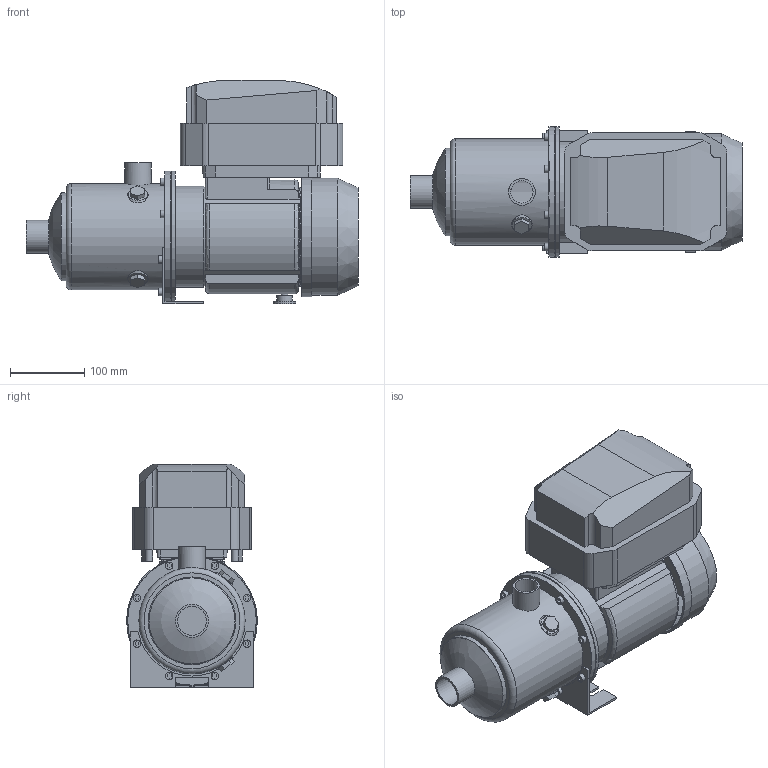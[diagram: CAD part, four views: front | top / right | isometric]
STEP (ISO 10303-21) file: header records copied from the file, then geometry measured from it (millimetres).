
FILE_DESCRIPTION(/* description */ ('Unknown'),/* implementation_level */ '2;1');
FILE_NAME(/* name */ 'MH 3 [5] T6 IE3 DTm',/* time_stamp */ '2026-07-10T15:09:02+02:00',/* author */ ('Unknown'),/* organization */ ('Unknown'),/* preprocessor_version */ 'ST-DEVELOPER v20',/* originating_system */ 'Solid Edge',/* authorisation */ 'Unknown');
FILE_SCHEMA (('AUTOMOTIVE_DESIGN {1 0 10303 214 3 1 1}'));
Length unit declared in the file: millimetre
Products named in the file (9): MH 3 [5] T6 IE3 DTm; Flangia motore Tonda M80; Corpo MH 3-5 [5]; Motore MEC 80 - T - VFD; carcassa MEC 80; Copriventola MEC 80; VFD sempl; Piedino MEC 80 int.90; Staffa 3-5-9 int.90
Assembly tree (8 placements, depth 3):
  MH 3 [5] T6 IE3 DTm
    Flangia motore Tonda M80
    Corpo MH 3-5 [5]
    Motore MEC 80 - T - VFD
      carcassa MEC 80
      Copriventola MEC 80
      VFD sempl
    Piedino MEC 80 int.90
    Staffa 3-5-9 int.90
Bounding box: 448.1 x 176.5 x 301 mm (x, y, z)
Volume: 5436533.7 mm3; surface area: 691247.4 mm2
Topology: 7 solids, 7 shells, 300 faces, 726 edges, 487 vertices
Faces by surface type: plane 196, cylinder 76, cone 17, torus 9, sphere 2
Full cylindrical faces by diameter (mm): 7 x4, 10 x9, 21 x1, 30 x1, 30.291 x1, 36 x1, 38.952 x1, 44.5 x1, 116.1 x1, 118.5 x1, 125 x1, 130 x3, 134 x1, 136 x1, 141.1 x1, 143.5 x1, 153 x1, 157 x1, 158 x1, 162 x1, 173.5 x1, 174.1 x1, 176.5 x2
Entity records: 9757 total; most frequent: CARTESIAN_POINT 1738, DIRECTION 1404, ORIENTED_EDGE 1302, EDGE_CURVE 651, AXIS2_PLACEMENT_3D 488, VERTEX_POINT 462, LINE 428, VECTOR 428
